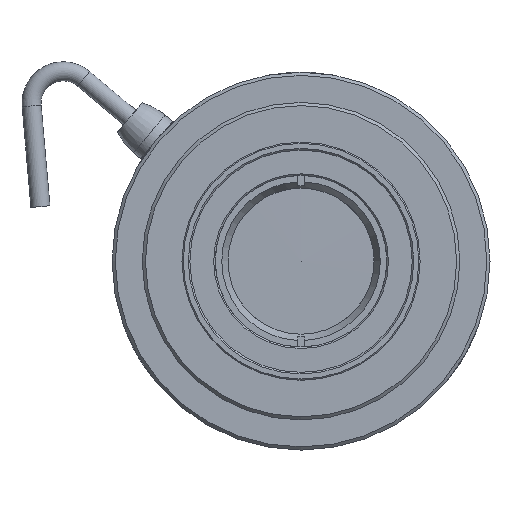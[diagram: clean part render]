
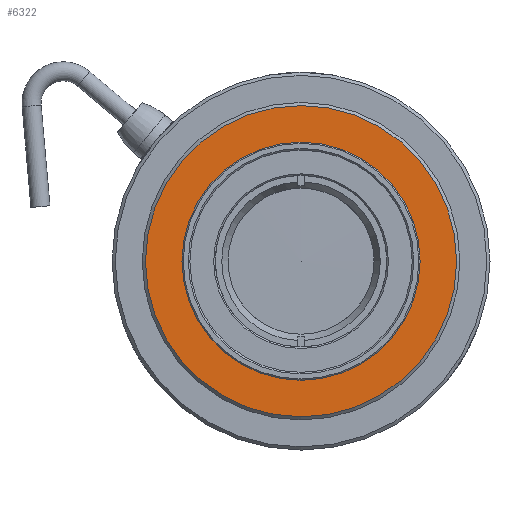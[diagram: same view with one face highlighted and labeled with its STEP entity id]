
A CAD part, front view. The second image highlights one B-rep face of the part: STEP entity #6322.
In plain terms, the highlighted planar face has unit normal (0, -1, 0).
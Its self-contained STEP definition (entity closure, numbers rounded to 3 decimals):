
#1057=PLANE('',#6657);
#1619=ORIENTED_EDGE('',*,*,#2566,.F.);
#1620=ORIENTED_EDGE('',*,*,#2388,.T.);
#2388=EDGE_CURVE('',#2954,#2954,#3364,.T.);
#2566=EDGE_CURVE('',#3084,#3084,#3386,.T.);
#2954=VERTEX_POINT('',#8271);
#3084=VERTEX_POINT('',#8689);
#3364=CIRCLE('',#6566,18.75);
#3386=CIRCLE('',#6658,24.5);
#3591=EDGE_LOOP('',(#1619));
#3592=EDGE_LOOP('',(#1620));
#3985=FACE_BOUND('',#3591,.T.);
#3986=FACE_BOUND('',#3592,.T.);
#6322=ADVANCED_FACE('',(#3985,#3986),#1057,.F.);
#6566=AXIS2_PLACEMENT_3D('',#8270,#7042,#7043);
#6657=AXIS2_PLACEMENT_3D('',#8687,#7374,#7375);
#6658=AXIS2_PLACEMENT_3D('',#8688,#7376,#7377);
#7042=DIRECTION('',(0.,1.,0.));
#7043=DIRECTION('',(0.,0.,1.));
#7374=DIRECTION('',(0.,1.,0.));
#7375=DIRECTION('',(0.,0.,1.));
#7376=DIRECTION('',(0.,1.,0.));
#7377=DIRECTION('',(0.,0.,1.));
#8270=CARTESIAN_POINT('',(0.,-73.726,0.));
#8271=CARTESIAN_POINT('',(0.,-73.726,18.75));
#8687=CARTESIAN_POINT('',(0.,-73.726,20.5));
#8688=CARTESIAN_POINT('',(0.,-73.726,0.));
#8689=CARTESIAN_POINT('',(0.,-73.726,24.5));
